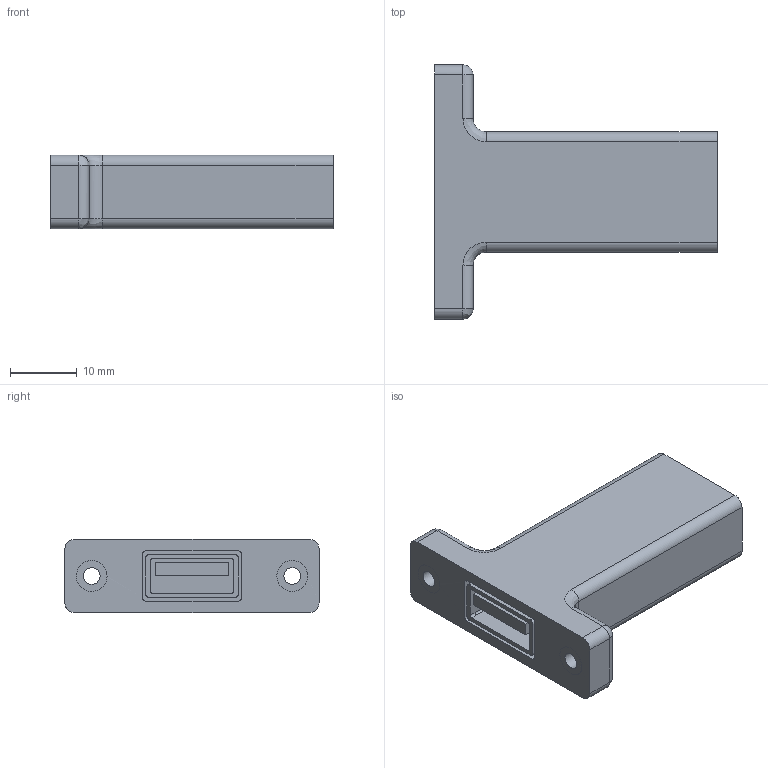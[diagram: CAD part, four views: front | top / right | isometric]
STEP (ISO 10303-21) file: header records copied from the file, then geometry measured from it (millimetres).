
FILE_DESCRIPTION( ('This file contains a STEP AP42 implementation' ,'as created by ZW3D STEP Interface translator.') ,'2;1' );
FILE_NAME( 'TB-004_FCAG-FAGF-D01E-S02_SD.stp' ,'26 320. 94943', (''), ('ZWCAD Software Co.'), 'Version 1.0', 'ZW3D to STEP translator', '' );
FILE_SCHEMA(('AUTOMOTIVE_DESIGN'));
Length unit declared in the file: millimetre
Products named in the file (2): 0; TB-004_FCAG-FAGF-D01E-S02_SD
Bounding box: 42.2 x 38 x 11 mm (x, y, z)
Volume: 8665.7 mm3; surface area: 4675.7 mm2
Topology: 1 solids, 1 shells, 116 faces, 286 edges, 184 vertices
Faces by surface type: bspline 116
Entity records: 6352 total; most frequent: CARTESIAN_POINT 4437, ORIENTED_EDGE 572, B_SPLINE_CURVE_WITH_KNOTS 286, EDGE_CURVE 286, VERTEX_POINT 184, EDGE_LOOP 132, FACE_OUTER_BOUND 116, ADVANCED_FACE 116
